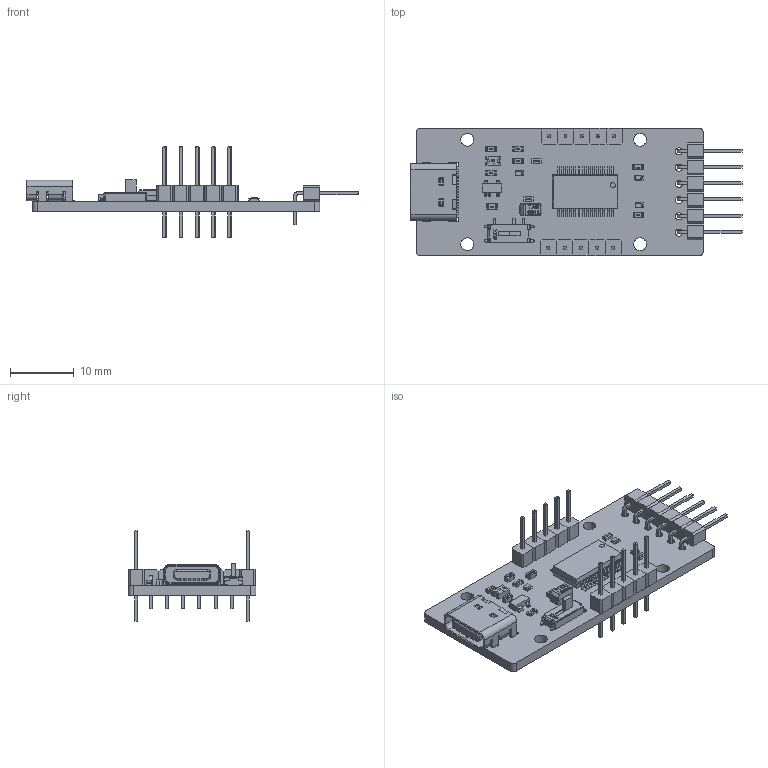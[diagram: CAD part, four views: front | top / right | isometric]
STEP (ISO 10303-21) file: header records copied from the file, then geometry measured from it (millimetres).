
FILE_DESCRIPTION(/* description */ (''),/* implementation_level */ '2;1');
FILE_NAME(/* name */ 'SG-C232-01C-V1.1_step.prt.stp',/* time_stamp */ '2025-08-19T11:17:18+08:00',/* author */ (''),/* organization */ (''),/* preprocessor_version */ 'ST-DEVELOPER v16.7',/* originating_system */ 'SIEMENS PLM Software NX 12.0',/* authorisation */ '');
FILE_SCHEMA (('AUTOMOTIVE_DESIGN { 1 0 10303 214 3 1 1 1 }'));
Products named in the file (57): _X2_041D043E0436043A0430_X0_; _X2_041C04350442043A0430_X0_; _X2_041A043E0440043F04430441_X0_; User_Library-LED_0603_R_Pad; User_Library-LED_0603_R_Pocket001; User_Library-LED_0603_R_Fillet; User_Library-LED_0603_R_Pad004; User_Library-LED_0603_R_Pocket002; Open CASCADE STEP translator 6.8 5.6.1.2; Open CASCADE STEP translator 6.8 5.6.1.1; C_060326072; LOGO_23008; LOGO_; R_060314402; Open CASCADE STEP translator 6.8 5.2.1.11; Open CASCADE STEP translator 6.8 5.2.1.10; Open CASCADE STEP translator 6.8 5.2.1.9; Open CASCADE STEP translator 6.8 5.2.1.8; Open CASCADE STEP translator 6.8 5.2.1.7; Open CASCADE STEP translator 6.8 5.2.1.6; Open CASCADE STEP translator 6.8 5.2.1.5; Open CASCADE STEP translator 6.8 5.2.1.4; Open CASCADE STEP translator 6.8 5.2.1.3; Open CASCADE STEP translator 6.8 5.2.1.2; Open CASCADE STEP translator 6.8 5.2.1.1; CAP_TAN_C3216_1206; SOT_143; F0805; Open CASCADE STEP translator 6.8 5.1.1; paizhen4; paizhen; SSOP-28-3; U1; C_0603; C1; C5; C2; C4; D1; User_Library-LED_0603_R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
Assembly tree (79 placements, depth 4):
  SG-C232-01C-V1.1_step
    Board
      Open CASCADE STEP translator 6.8 5.1.1
    J1
      TYPE-C-16P
        Open CASCADE STEP translator 6.8 5.2.1.1
        Open CASCADE STEP translator 6.8 5.2.1.2
        Open CASCADE STEP translator 6.8 5.2.1.3
        Open CASCADE STEP translator 6.8 5.2.1.4
        Open CASCADE STEP translator 6.8 5.2.1.5
        Open CASCADE STEP translator 6.8 5.2.1.6
        Open CASCADE STEP translator 6.8 5.2.1.7
        Open CASCADE STEP translator 6.8 5.2.1.8
        Open CASCADE STEP translator 6.8 5.2.1.9
        Open CASCADE STEP translator 6.8 5.2.1.10
        Open CASCADE STEP translator 6.8 5.2.1.11
    R2
      R_0603
        R_060314402
        LOGO_
    R1
      R_0603
        R_060314402
        LOGO_
    C3
      C_0603
        LOGO_23008
        C_060326072
    SW1
      ss-3292s-l2-b
        Open CASCADE STEP translator 6.8 5.6.1.1
        Open CASCADE STEP translator 6.8 5.6.1.2
    R5
      R_0603
        R_060314402
        LOGO_
    R4
      R_0603
        R_060314402
        LOGO_
    R3
      R_0603
        R_060314402
        LOGO_
    F1
      F0805
    D4
      User_Library-LED_0603_R
        User_Library-LED_0603_R_Pocket002
        User_Library-LED_0603_R_Pad004
        User_Library-LED_0603_R_Fillet
        User_Library-LED_0603_R_Pocket001
        User_Library-LED_0603_R_Pad
    D3
      User_Library-LED_0603_R
        User_Library-LED_0603_R_Pocket002
        User_Library-LED_0603_R_Pad004
        User_Library-LED_0603_R_Fillet
        User_Library-LED_0603_R_Pocket001
        User_Library-LED_0603_R_Pad
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Bounding box: 51.96 x 20 x 14.14 mm (x, y, z)
Volume: 1961.5 mm3; surface area: 4103.5 mm2
Topology: 250 solids, 250 shells, 3549 faces, 8625 edges, 5618 vertices
Faces by surface type: plane 2197, bspline 680, cylinder 586, sphere 50, torus 28, cone 8
Full cylindrical faces by diameter (mm): 0.7 x2, 0.9 x10, 1.1 x8, 2 x4
Entity records: 65731 total; most frequent: CARTESIAN_POINT 23289, ORIENTED_EDGE 7846, DIRECTION 7197, EDGE_CURVE 3923, LINE 2897, VECTOR 2897, VERTEX_POINT 2562, AXIS2_PLACEMENT_3D 2150
